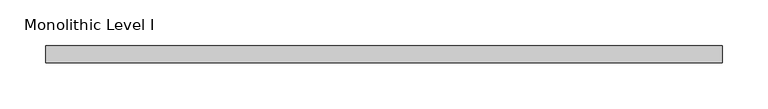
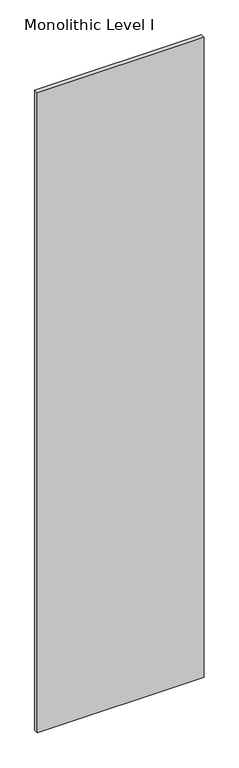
"""IFC4 building model written with IfcOpenShell, lengths in millimetres: proxy geometry, Panel-Fascia-Teknion-Altos-Standard : Monolithic Level I."""

from ifc_helpers import new_model, si_unit, frame, origin, place, context, project, spatial, polyline, outline, extrude, source, transform, mapped, element, save


def monolithic_level_i_efd8ba40(model_context):
    return source(origin(), model_context, "Body", "SweptSolid", [
        extrude(outline(polyline([(371.4253906, 9.525), (371.4253906, -9.525), (-371.4253906, -9.525), (-371.4253906, 9.525), (371.4253906, 9.525)])), frame((0.0, 0.0, 3.175), z_axis=(0.0, 0.0, 1.0), x_axis=(1.0, 0.0, 0.0)), (0.0, 0.0, 1.0), 3016.25),
    ])


if __name__ == "__main__":
    model = new_model("IFC4")
    model_context = context("Model", 3, world=origin())
    ifc_project = project(units=[si_unit("LENGTHUNIT", "METRE", prefix="MILLI")], contexts=[model_context])
    site = spatial("IfcSite", under=ifc_project)
    building = spatial("IfcBuilding", under=site)
    placement = place(None, origin())
    monolithic_level_i_shape = monolithic_level_i_efd8ba40(model_context)
    element("IfcBuildingElementProxy", 1, Name="Panel-Fascia-Teknion-Altos-Standard : Monolithic Level I", ObjectType="Panel-Fascia-Teknion-Altos-Standard : Monolithic Level I", at=placement, inside=building, context=model_context, shape_type="MappedRepresentation", body=[
        mapped(monolithic_level_i_shape, transform((0.0, 0.0, 0.0), x_axis=(1.0, 0.0, 0.0), y_axis=(0.0, 1.0, 0.0), z_axis=(0.0, 0.0, 1.0))),
    ])
    save(model, "model.ifc")
